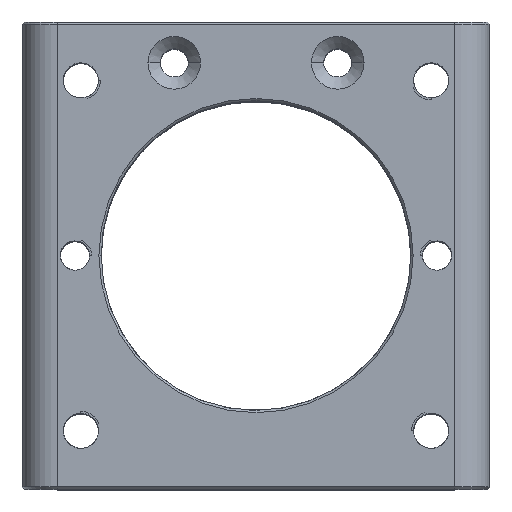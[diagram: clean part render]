
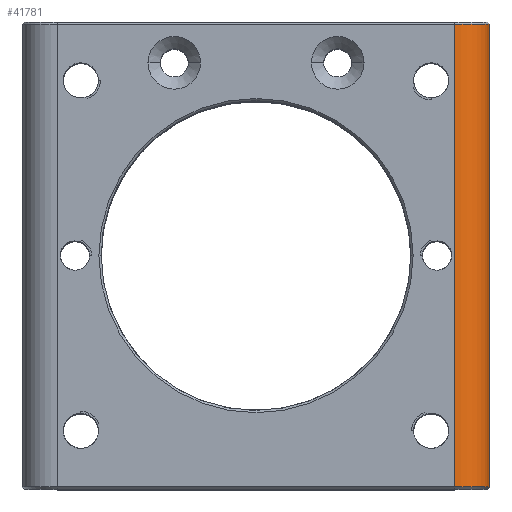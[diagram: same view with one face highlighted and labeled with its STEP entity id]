
A CAD part, top view. The second image highlights one B-rep face of the part: STEP entity #41781.
In plain terms, the highlighted cylindrical face has radius 3 mm (diameter 6 mm), a partial arc.
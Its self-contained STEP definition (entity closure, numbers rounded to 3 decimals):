
#2816 = VERTEX_POINT ( 'NONE', #147014 ) ;
#2833 = CARTESIAN_POINT ( 'NONE',  ( 17., 19.8, 17. ) ) ;
#7702 = DIRECTION ( 'NONE',  ( 0., 1., 0. ) ) ;
#7750 = AXIS2_PLACEMENT_3D ( 'NONE', #2833, #13303, #105546 ) ;
#13303 = DIRECTION ( 'NONE',  ( 0., -1., 0. ) ) ;
#22536 = EDGE_CURVE ( 'NONE', #124938, #135497, #57677, .T. ) ;
#25619 = EDGE_CURVE ( 'NONE', #124938, #105992, #109848, .T. ) ;
#26369 = DIRECTION ( 'NONE',  ( 0., 0., -1. ) ) ;
#29363 = CIRCLE ( 'NONE', #81623, 3. ) ;
#29506 = CARTESIAN_POINT ( 'NONE',  ( 20., 20., 17. ) ) ;
#30498 = EDGE_CURVE ( 'NONE', #2816, #105992, #29363, .T. ) ;
#37671 = DIRECTION ( 'NONE',  ( 0., 1., 0. ) ) ;
#38820 = VECTOR ( 'NONE', #7702, 1000. ) ;
#41578 = CARTESIAN_POINT ( 'NONE',  ( 20., 19.8, 17. ) ) ;
#41781 = ADVANCED_FACE ( 'NONE', ( #139417 ), #127543, .T. ) ;
#45883 = DIRECTION ( 'NONE',  ( 0., 0., -1. ) ) ;
#57677 = CIRCLE ( 'NONE', #7750, 3. ) ;
#57782 = AXIS2_PLACEMENT_3D ( 'NONE', #84437, #140149, #26369 ) ;
#65659 = ORIENTED_EDGE ( 'NONE', *, *, #22536, .T. ) ;
#67353 = CARTESIAN_POINT ( 'NONE',  ( 20., -19.8, 17. ) ) ;
#69633 = ORIENTED_EDGE ( 'NONE', *, *, #25619, .F. ) ;
#69731 = ORIENTED_EDGE ( 'NONE', *, *, #30498, .T. ) ;
#80886 = EDGE_LOOP ( 'NONE', ( #69633, #65659, #109098, #69731 ) ) ;
#81623 = AXIS2_PLACEMENT_3D ( 'NONE', #136561, #37671, #45883 ) ;
#84437 = CARTESIAN_POINT ( 'NONE',  ( 17., 20., 17. ) ) ;
#89258 = EDGE_CURVE ( 'NONE', #2816, #135497, #109690, .T. ) ;
#89640 = CARTESIAN_POINT ( 'NONE',  ( 17., 19.8, 20. ) ) ;
#98213 = VECTOR ( 'NONE', #121745, 1000. ) ;
#105546 = DIRECTION ( 'NONE',  ( 0., 0., -1. ) ) ;
#105992 = VERTEX_POINT ( 'NONE', #67353 ) ;
#109098 = ORIENTED_EDGE ( 'NONE', *, *, #89258, .F. ) ;
#109690 = LINE ( 'NONE', #130514, #38820 ) ;
#109848 = LINE ( 'NONE', #29506, #98213 ) ;
#121745 = DIRECTION ( 'NONE',  ( 0., -1., 0. ) ) ;
#124938 = VERTEX_POINT ( 'NONE', #41578 ) ;
#127543 = CYLINDRICAL_SURFACE ( 'NONE', #57782, 3. ) ;
#130514 = CARTESIAN_POINT ( 'NONE',  ( 17., 20., 20. ) ) ;
#135497 = VERTEX_POINT ( 'NONE', #89640 ) ;
#136561 = CARTESIAN_POINT ( 'NONE',  ( 17., -19.8, 17. ) ) ;
#139417 = FACE_OUTER_BOUND ( 'NONE', #80886, .T. ) ;
#140149 = DIRECTION ( 'NONE',  ( 0., -1., 0. ) ) ;
#147014 = CARTESIAN_POINT ( 'NONE',  ( 17., -19.8, 20. ) ) ;
